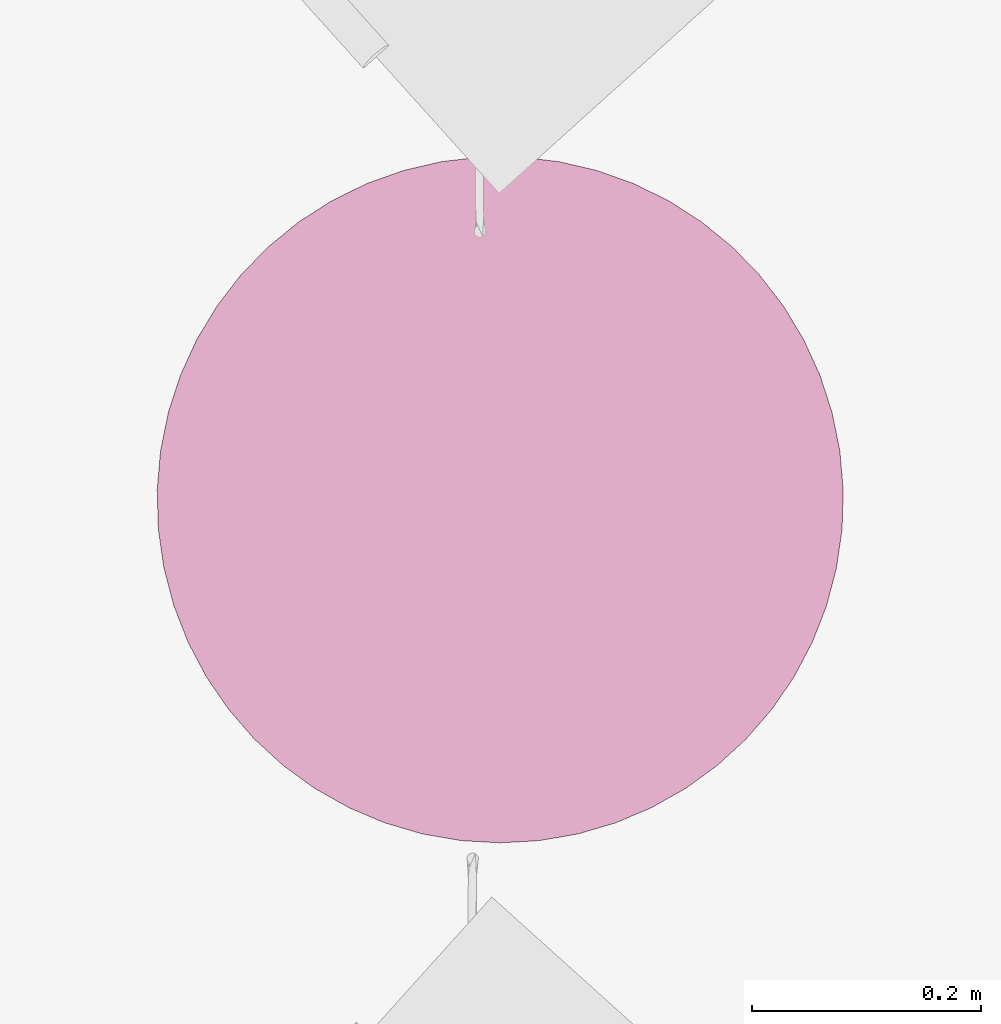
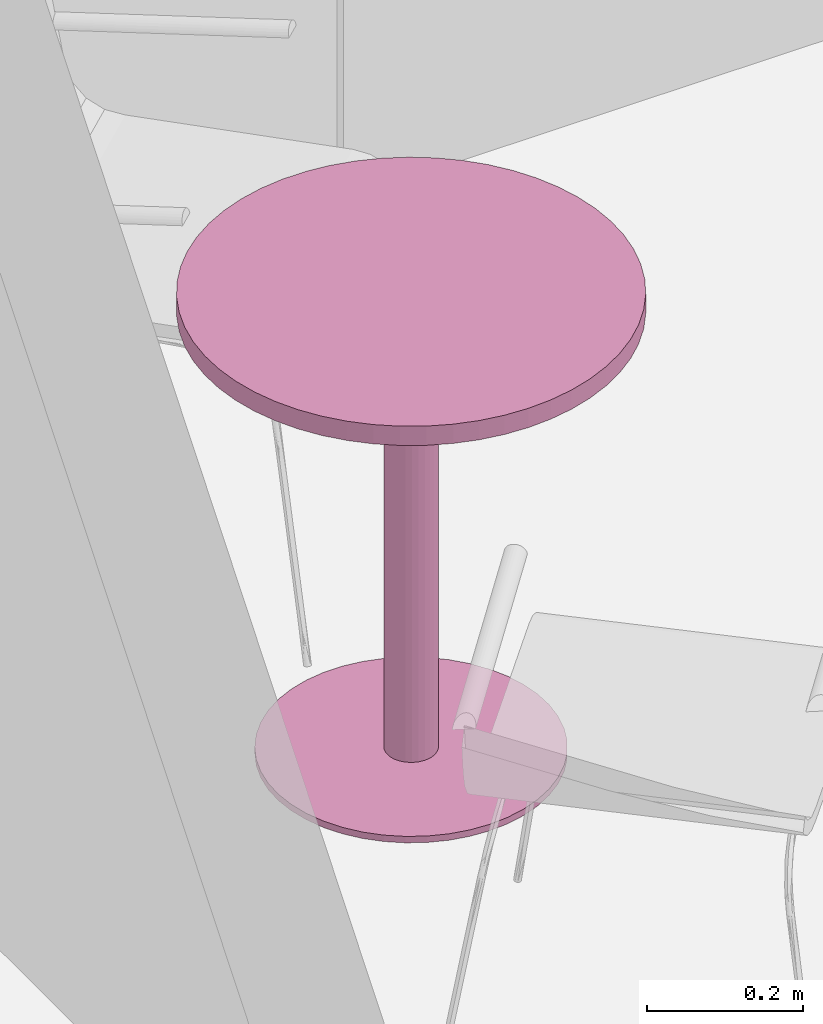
# One storey, part 49 of 58: 1 furnishing.
"""IFC2X3 building model written with IfcOpenShell, lengths in millimetres."""

from ifc_helpers import new_model, entity, si_unit, converted_unit, derived_unit, direction, frame, frame_2d, origin, place, context, subcontext, project, spatial, circle, extrude, source, transform, mapped, material, material_list, type_object, type_shapes, element, save


model = new_model("IFC2X3")

# Units and contexts
model_context = context("Model", 3, precision=0.01, world=origin(), true_north=direction((0.7716245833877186, 0.6360782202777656)))
body_context = subcontext(model_context, "Body", "Model", "MODEL_VIEW")
ifc_project = project(units=[si_unit("LENGTHUNIT", "METRE", prefix="MILLI"), si_unit("AREAUNIT", "SQUARE_METRE"), converted_unit("PLANEANGLEUNIT", "DEGREE", entity("IfcPlaneAngleMeasure", 0.017453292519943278), si_unit("PLANEANGLEUNIT", "RADIAN"), dimensions=[0, 0, 0, 0, 0, 0, 0]), derived_unit("THERMALTRANSMITTANCEUNIT", [(si_unit("MASSUNIT", "GRAM", prefix="KILO"), 1), (si_unit("THERMODYNAMICTEMPERATUREUNIT", "KELVIN"), -1), (si_unit("TIMEUNIT", "SECOND"), -3)])], contexts=[model_context])

# Site, building, storey
site_placement = place(None, origin())
site = spatial("IfcSite", under=ifc_project, at=site_placement, Name="Default", CompositionType="ELEMENT")
building_placement = place(site_placement, origin())
building = spatial("IfcBuilding", under=site, at=building_placement, CompositionType="ELEMENT")
storey_placement = place(building_placement, frame((0.0, 0.0, 31140.0)))
storey = spatial("IfcBuildingStorey", under=building, at=storey_placement, Name="PLAN U1", CompositionType="ELEMENT", Elevation=31140.000000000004)

# Furnishing
ifc_material_1 = material(Name="Plate")
ifc_material_2 = material(Name="Metall")
ifc_material_list = material_list([ifc_material_1, ifc_material_2])
furniture_type = type_object("IfcFurnitureType", Name="Bord-rundt:Bord, Ø600", AssemblyPlace="NOTDEFINED", material=ifc_material_list)
shared_shape = source(origin(), body_context, "Body", "SweptSolid", [
    extrude(circle(Radius=300.0, at=frame_2d((0.0, -1.4172507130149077e-12), x_axis=(1.0, 0.0))), frame((0.0, 0.0, 690.0)), (0.0, 0.0, 1.0), 29.99999999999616),
    extrude(circle(Radius=35.0, at=frame_2d((-4.3957322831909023e-16, -1.575743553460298e-13), x_axis=(1.0, 0.0))), frame((0.0, 0.0, 10.0)), (0.0, 0.0, 1.0), 680.0000000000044),
    extrude(circle(Radius=200.0, at=frame_2d((-8.4218585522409e-15, -9.448338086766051e-13), x_axis=(1.0, 0.0))), origin(), (0.0, 0.0, 1.0), 10.000000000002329),
])
type_shapes(furniture_type, [shared_shape])
furnishing_placement = place(storey_placement, frame((271367.9244464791, 56416.132847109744, 0.0), z_axis=(0.0, 0.0, 1.0), x_axis=(0.0, -1.0, 0.0)))
element("IfcFurnishingElement", 1, at=furnishing_placement, inside=storey, type_object=furniture_type, material=ifc_material_list, Name="Bord-rundt:Bord, Ø600", ObjectType="Bord-rundt:Bord, Ø600", context=body_context, shape_type="MappedRepresentation", body=[
    mapped(shared_shape, transform((0.0, 0.0, 0.0), scale=1.0)),
])

save(model, "model.ifc")
